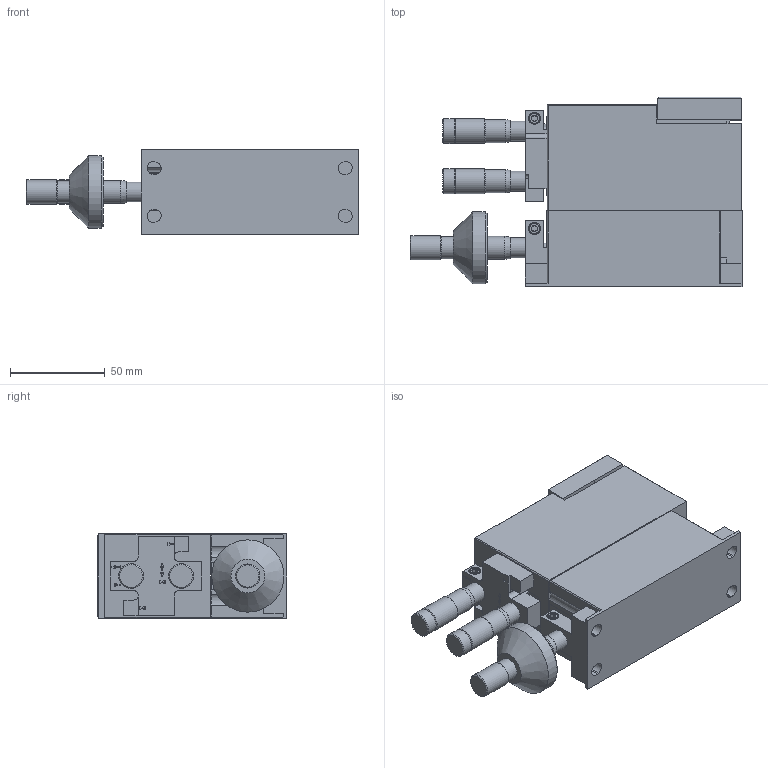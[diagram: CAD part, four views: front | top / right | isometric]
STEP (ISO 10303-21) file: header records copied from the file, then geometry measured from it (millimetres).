
FILE_DESCRIPTION((''),'1');
FILE_NAME('P1-L-H-I','2021-03-26T14:17:50',('JD'),('Luminos'),'Spatial Interop R20 SP1','Kubotek KeyCreator V9.0.3 (16864)',' ');
FILE_SCHEMA(('automotive_design'));
Length unit declared in the file: inch
Products named in the file (2): 1; 2
Bounding box: 175.18 x 100.08 x 44.45 mm (x, y, z)
Volume: 485613.7 mm3; surface area: 67047.2 mm2
Topology: 2 solids, 2 shells, 435 faces, 1045 edges, 674 vertices
Faces by surface type: plane 257, cylinder 110, cone 68
Full cylindrical faces by diameter (mm): 2.05 x25, 4.648 x2, 4.775 x2, 5 x3, 5.74 x3, 6.35 x3, 7.144 x1, 9.5 x2, 9.525 x1, 10.49 x3, 11.684 x1, 12.116 x3, 12.7 x1, 13.081 x4, 38.1 x1
Entity records: 21776 total; most frequent: CARTESIAN_POINT 2201, DIRECTION 2043, ORIENTED_EDGE 1828, PRESENTATION_STYLE_ASSIGNMENT 1788, COLOUR_RGB 1788, STYLED_ITEM 1351, CURVE_STYLE 1351, DRAUGHTING_PRE_DEFINED_CURVE_FONT 1351
